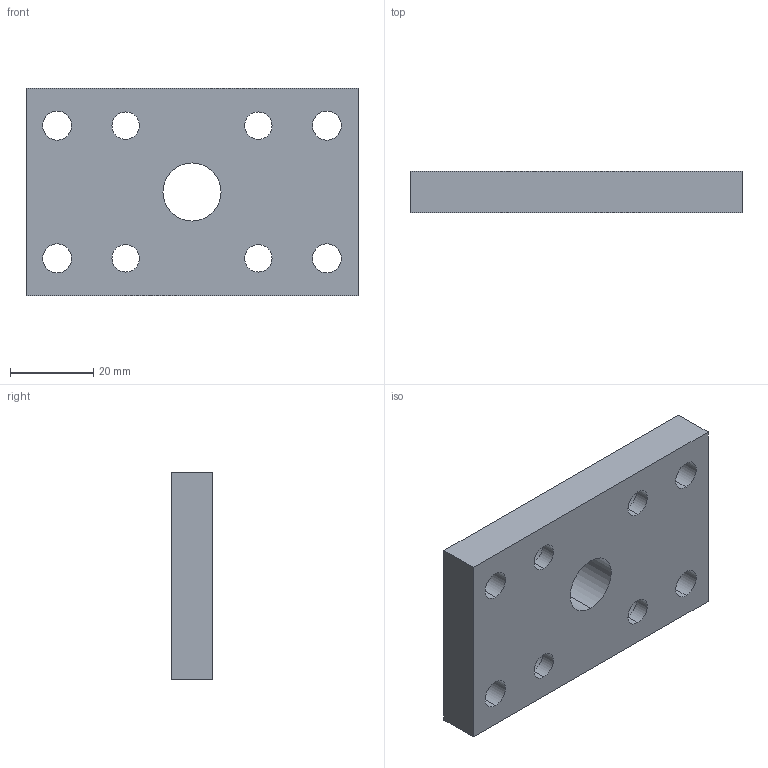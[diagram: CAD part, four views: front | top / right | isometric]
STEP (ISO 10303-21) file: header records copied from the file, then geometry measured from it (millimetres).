
FILE_DESCRIPTION (( 'STEP AP214' ), '1' );
FILE_NAME ('FLU-032.STEP', '2013-10-02T11:49:05', ( '' ), ( '' ), 'SwSTEP 2.0', 'SolidWorks 2009', '' );
FILE_SCHEMA (( 'AUTOMOTIVE_DESIGN' ));
Length unit declared in the file: millimetre
Products named in the file (1): FLU-032
Bounding box: 80 x 10 x 50 mm (x, y, z)
Volume: 33995.7 mm3; surface area: 12213.3 mm2
Topology: 1 solids, 1 shells, 36 faces, 90 edges, 60 vertices
Faces by surface type: cylinder 26, plane 10
Entity records: 1176 total; most frequent: DIRECTION 216, CARTESIAN_POINT 187, ORIENTED_EDGE 180, EDGE_CURVE 90, AXIS2_PLACEMENT_3D 89, VERTEX_POINT 60, EDGE_LOOP 58, CIRCLE 52
